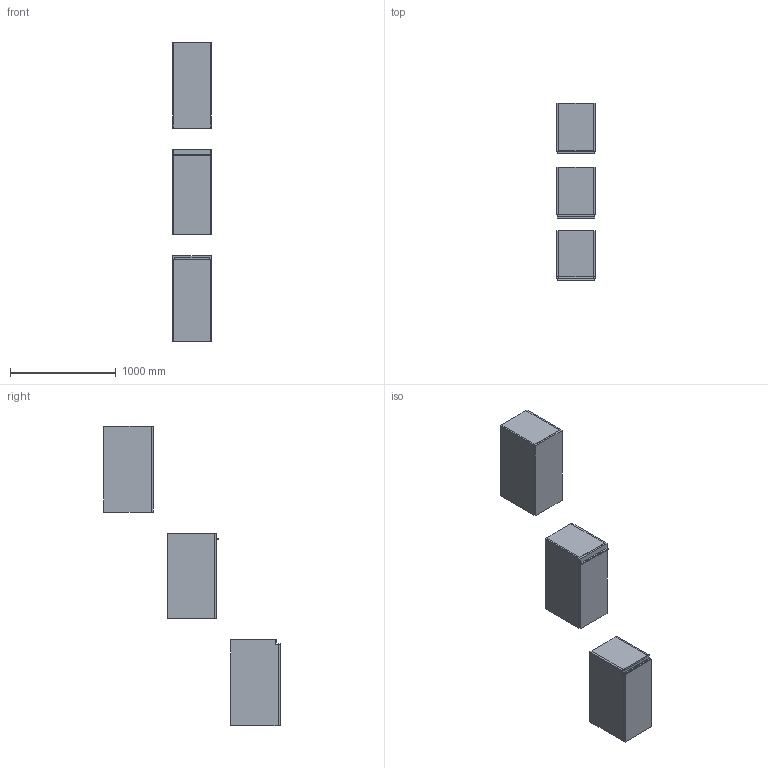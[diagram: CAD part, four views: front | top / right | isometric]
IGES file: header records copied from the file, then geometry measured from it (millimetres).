
Start section: Data from Parasolid IGES Translator 19.0.9, Copyright(c) 2006 Siemens PL M Software. All Rights Reserved.
Global section: file name: noorth-SI-H 81,2 D 47 W 36_8713.igs; native system: By Siemens PLM Incorporated; preprocessor: XPlus GENERIC/IGES 19.0.9; author: Noname; organization: Noname; date: 20200601.133914; units: metre
Bounding box: 360.01 x 1669.1 x 2832.01 mm (x, y, z)
Volume: 67564181.6 mm3; surface area: 9979906.2 mm2
Topology: 20 solids, 20 shells, 178 faces, 382 edges, 234 vertices
Faces by surface type: plane 134, extrusion 16, bspline 16, cylinder 12
